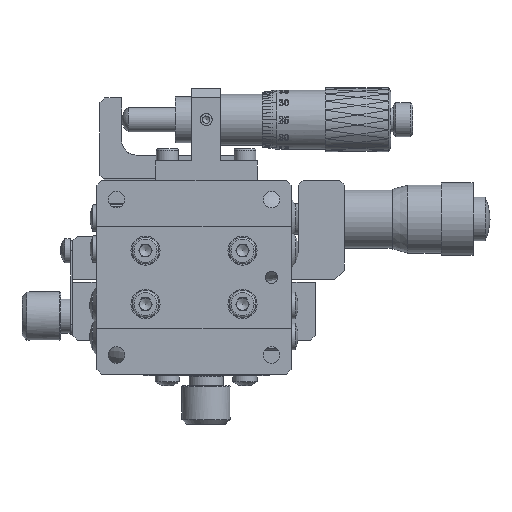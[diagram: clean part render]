
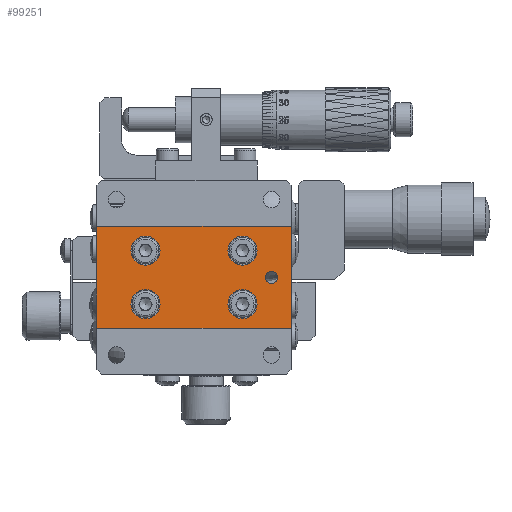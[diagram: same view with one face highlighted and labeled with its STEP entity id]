
A CAD part, front view. The second image highlights one B-rep face of the part: STEP entity #99251.
In plain terms, the highlighted planar face has unit normal (0, -1, 0).
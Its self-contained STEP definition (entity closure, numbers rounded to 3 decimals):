
#283 = DIRECTION ( 'NONE',  ( 1., 0., 0. ) ) ;
#891 = VERTEX_POINT ( 'NONE', #64388 ) ;
#1715 = EDGE_LOOP ( 'NONE', ( #23156 ) ) ;
#2702 = VERTEX_POINT ( 'NONE', #72101 ) ;
#3697 = ORIENTED_EDGE ( 'NONE', *, *, #24537, .F. ) ;
#4599 = VERTEX_POINT ( 'NONE', #26966 ) ;
#5202 = CARTESIAN_POINT ( 'NONE',  ( -20., -19.5, -10.5 ) ) ;
#5502 = EDGE_CURVE ( 'NONE', #27700, #27700, #45725, .T. ) ;
#5557 = DIRECTION ( 'NONE',  ( 1., 0., 0. ) ) ;
#5817 = EDGE_CURVE ( 'NONE', #75214, #75214, #19889, .T. ) ;
#7606 = CARTESIAN_POINT ( 'NONE',  ( -20., -19.5, 10.5 ) ) ;
#8393 = CARTESIAN_POINT ( 'NONE',  ( 10., -19.5, -5.5 ) ) ;
#8468 = AXIS2_PLACEMENT_3D ( 'NONE', #100128, #21320, #5557 ) ;
#11045 = DIRECTION ( 'NONE',  ( 0., 0., 1. ) ) ;
#11103 = FACE_BOUND ( 'NONE', #35779, .T. ) ;
#16950 = CARTESIAN_POINT ( 'NONE',  ( 20., -19.5, 10.5 ) ) ;
#17191 = EDGE_CURVE ( 'NONE', #2702, #2702, #32429, .T. ) ;
#18117 = VECTOR ( 'NONE', #60805, 1000. ) ;
#18810 = DIRECTION ( 'NONE',  ( 0., 0., 1. ) ) ;
#19223 = CARTESIAN_POINT ( 'NONE',  ( 20., -19.5, 10.5 ) ) ;
#19275 = DIRECTION ( 'NONE',  ( 0., 1., 0. ) ) ;
#19889 = CIRCLE ( 'NONE', #8468, 3. ) ;
#21320 = DIRECTION ( 'NONE',  ( 0., -1., 0. ) ) ;
#21646 = CARTESIAN_POINT ( 'NONE',  ( 13., -19.5, 5.5 ) ) ;
#23030 = EDGE_CURVE ( 'NONE', #38926, #47750, #53078, .T. ) ;
#23156 = ORIENTED_EDGE ( 'NONE', *, *, #37698, .F. ) ;
#24537 = EDGE_CURVE ( 'NONE', #38926, #891, #56733, .T. ) ;
#25891 = CARTESIAN_POINT ( 'NONE',  ( -20., -19.5, 10.5 ) ) ;
#26121 = VECTOR ( 'NONE', #18810, 1000. ) ;
#26966 = CARTESIAN_POINT ( 'NONE',  ( -7., -19.5, 5.5 ) ) ;
#27700 = VERTEX_POINT ( 'NONE', #21646 ) ;
#29351 = EDGE_LOOP ( 'NONE', ( #84673 ) ) ;
#29381 = EDGE_LOOP ( 'NONE', ( #68272 ) ) ;
#32429 = CIRCLE ( 'NONE', #38866, 1.25 ) ;
#33662 = DIRECTION ( 'NONE',  ( 1., 0., 0. ) ) ;
#34283 = CIRCLE ( 'NONE', #40765, 3. ) ;
#35226 = DIRECTION ( 'NONE',  ( 0., -1., 0. ) ) ;
#35779 = EDGE_LOOP ( 'NONE', ( #45520 ) ) ;
#37698 = EDGE_CURVE ( 'NONE', #4599, #4599, #34283, .T. ) ;
#37734 = EDGE_CURVE ( 'NONE', #47750, #77452, #98434, .T. ) ;
#38866 = AXIS2_PLACEMENT_3D ( 'NONE', #54949, #87264, #33662 ) ;
#38926 = VERTEX_POINT ( 'NONE', #5202 ) ;
#39372 = DIRECTION ( 'NONE',  ( 1., 0., 0. ) ) ;
#40464 = ORIENTED_EDGE ( 'NONE', *, *, #23030, .T. ) ;
#40765 = AXIS2_PLACEMENT_3D ( 'NONE', #59541, #82794, #49587 ) ;
#40973 = EDGE_LOOP ( 'NONE', ( #97076 ) ) ;
#42018 = FACE_BOUND ( 'NONE', #29351, .T. ) ;
#45130 = LINE ( 'NONE', #7606, #18117 ) ;
#45520 = ORIENTED_EDGE ( 'NONE', *, *, #5817, .F. ) ;
#45725 = CIRCLE ( 'NONE', #63452, 3. ) ;
#46491 = CARTESIAN_POINT ( 'NONE',  ( -20., -19.5, -10.5 ) ) ;
#47423 = AXIS2_PLACEMENT_3D ( 'NONE', #8393, #47905, #283 ) ;
#47750 = VERTEX_POINT ( 'NONE', #55236 ) ;
#47905 = DIRECTION ( 'NONE',  ( 0., -1., 0. ) ) ;
#49587 = DIRECTION ( 'NONE',  ( 1., 0., 0. ) ) ;
#50637 = DIRECTION ( 'NONE',  ( 1., 0., 0. ) ) ;
#53078 = LINE ( 'NONE', #46491, #60218 ) ;
#54949 = CARTESIAN_POINT ( 'NONE',  ( 16., -19.5, 0. ) ) ;
#55236 = CARTESIAN_POINT ( 'NONE',  ( 20., -19.5, -10.5 ) ) ;
#56733 = LINE ( 'NONE', #25891, #26121 ) ;
#57222 = FACE_BOUND ( 'NONE', #29381, .T. ) ;
#59541 = CARTESIAN_POINT ( 'NONE',  ( -10., -19.5, 5.5 ) ) ;
#60218 = VECTOR ( 'NONE', #39372, 1000. ) ;
#60805 = DIRECTION ( 'NONE',  ( 1., 0., 0. ) ) ;
#60829 = EDGE_CURVE ( 'NONE', #891, #77452, #45130, .T. ) ;
#63452 = AXIS2_PLACEMENT_3D ( 'NONE', #81752, #35226, #66093 ) ;
#64388 = CARTESIAN_POINT ( 'NONE',  ( -20., -19.5, 10.5 ) ) ;
#65291 = FACE_OUTER_BOUND ( 'NONE', #98682, .T. ) ;
#66093 = DIRECTION ( 'NONE',  ( 1., 0., 0. ) ) ;
#66536 = VERTEX_POINT ( 'NONE', #97363 ) ;
#66673 = EDGE_CURVE ( 'NONE', #66536, #66536, #91022, .T. ) ;
#68272 = ORIENTED_EDGE ( 'NONE', *, *, #66673, .F. ) ;
#69172 = ORIENTED_EDGE ( 'NONE', *, *, #60829, .F. ) ;
#72101 = CARTESIAN_POINT ( 'NONE',  ( 17.25, -19.5, 0. ) ) ;
#75214 = VERTEX_POINT ( 'NONE', #82819 ) ;
#77452 = VERTEX_POINT ( 'NONE', #16950 ) ;
#80444 = FACE_BOUND ( 'NONE', #40973, .T. ) ;
#81752 = CARTESIAN_POINT ( 'NONE',  ( 10., -19.5, 5.5 ) ) ;
#82794 = DIRECTION ( 'NONE',  ( 0., -1., 0. ) ) ;
#82819 = CARTESIAN_POINT ( 'NONE',  ( -7., -19.5, -5.5 ) ) ;
#84673 = ORIENTED_EDGE ( 'NONE', *, *, #5502, .F. ) ;
#87264 = DIRECTION ( 'NONE',  ( 0., 1., 0. ) ) ;
#88536 = CARTESIAN_POINT ( 'NONE',  ( -20., -19.5, 10.5 ) ) ;
#89192 = VECTOR ( 'NONE', #11045, 1000. ) ;
#91022 = CIRCLE ( 'NONE', #47423, 3. ) ;
#95598 = FACE_BOUND ( 'NONE', #1715, .T. ) ;
#95987 = ORIENTED_EDGE ( 'NONE', *, *, #37734, .T. ) ;
#96109 = PLANE ( 'NONE',  #96509 ) ;
#96509 = AXIS2_PLACEMENT_3D ( 'NONE', #88536, #19275, #50637 ) ;
#97076 = ORIENTED_EDGE ( 'NONE', *, *, #17191, .T. ) ;
#97363 = CARTESIAN_POINT ( 'NONE',  ( 13., -19.5, -5.5 ) ) ;
#98434 = LINE ( 'NONE', #19223, #89192 ) ;
#98682 = EDGE_LOOP ( 'NONE', ( #95987, #69172, #3697, #40464 ) ) ;
#99251 = ADVANCED_FACE ( 'NONE', ( #80444, #95598, #57222, #65291, #11103, #42018 ), #96109, .F. ) ;
#100128 = CARTESIAN_POINT ( 'NONE',  ( -10., -19.5, -5.5 ) ) ;
